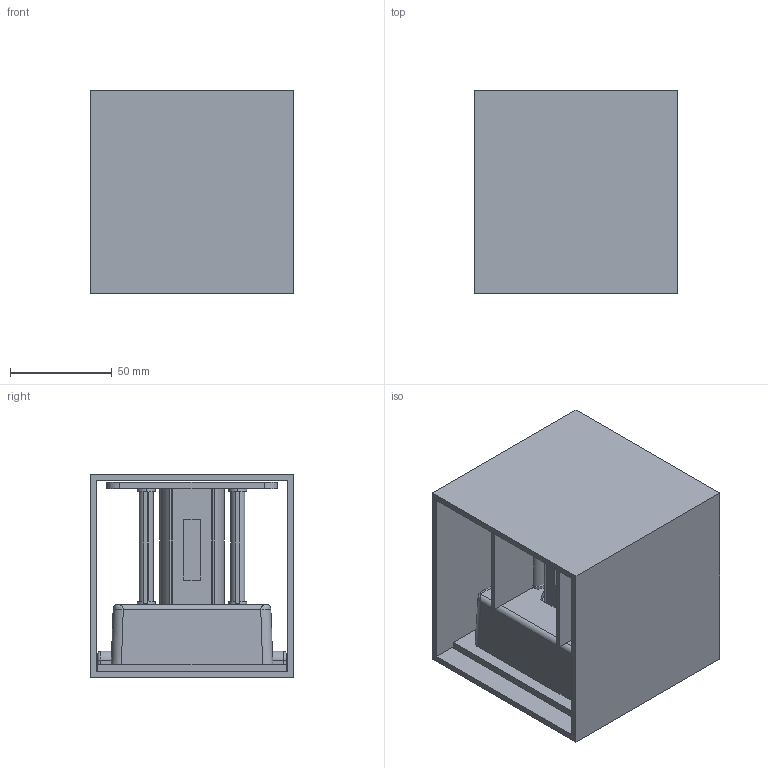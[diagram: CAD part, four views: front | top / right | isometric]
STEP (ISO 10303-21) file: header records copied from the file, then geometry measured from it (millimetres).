
FILE_DESCRIPTION (( 'STEP AP214' ), '1' );
FILE_NAME ('KENDO-A2032070.STEP', '2026-01-14T08:29:29', ( '' ), ( '' ), 'SwSTEP 2.0', 'SolidWorks 2025', '' );
FILE_SCHEMA (( 'AUTOMOTIVE_DESIGN' ));
Length unit declared in the file: millimetre
Products named in the file (12): GW-A310(2); 型材.1_3; ZhuangPei(1)_310装配_3; BISEL KENDO_BISEL 100 - K0019040; 叶片_3; Part3_ZhuangPei(1)_310装配_3; M5X6内六角_ZhuangPei(1)_310装配_3; 310装配-2-27_3; Part2_ZhuangPei(1)_310装配_3; 玻璃_3; KENDO-A2032070; 硅胶垫_3
Assembly tree (18 placements, depth 5):
  KENDO-A2032070
    GW-A310(2)
      310装配-2-27_3
        ZhuangPei(1)_310装配_3
          M5X6内六角_ZhuangPei(1)_310装配_3
          Part2_ZhuangPei(1)_310装配_3
          Part3_ZhuangPei(1)_310装配_3
        玻璃_3  x2
        硅胶垫_3  x4
        叶片_3  x2
      型材.1_3
      叶片_3  x2
    BISEL KENDO_BISEL 100 - K0019040
Bounding box: 100 x 100 x 100 mm (x, y, z)
Volume: 211190 mm3; surface area: 165158.2 mm2
Topology: 16 solids, 18 shells, 645 faces, 1684 edges, 1110 vertices
Faces by surface type: plane 280, cylinder 196, bspline 84, torus 45, cone 40
Entity records: 22207 total; most frequent: CARTESIAN_POINT 8391, ORIENTED_EDGE 2974, DIRECTION 2486, EDGE_CURVE 1487, VERTEX_POINT 980, AXIS2_PLACEMENT_3D 875, LINE 736, VECTOR 736
